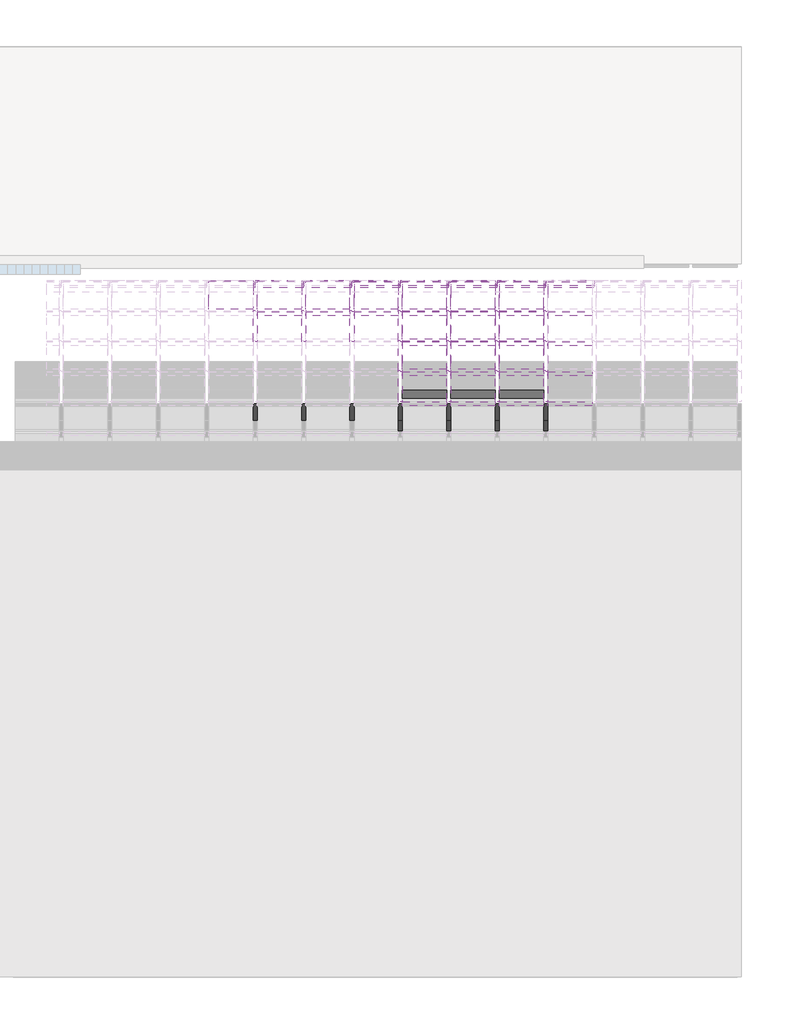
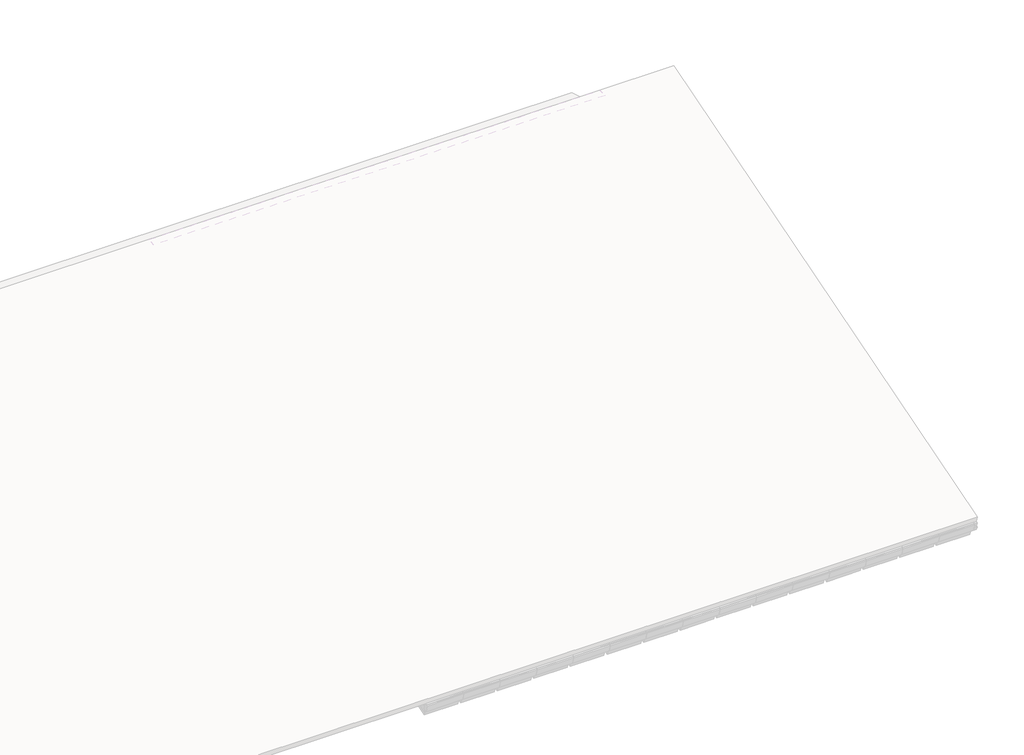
# One storey, part 52 of 57: 92 members, 31 plates.
"""IFC4 building model written with IfcOpenShell, lengths in millimetres."""

from ifc_helpers import new_model, si_unit, origin, place, context, project, spatial, transform, mapped, element, save
from components import rectangular_mullion_4c4137b9, rectangular_mullion_59984080, rectangular_mullion_3ac3718c, rectangular_mullion_caibro_df98490b, rectangular_mullion_caibro_e4384bba, rectangular_mullion_caibro_0993a3cf, rectangular_mullion_caibro_650698a1, empty_system_panel_vazio_178faf58, empty_system_panel_vazio_2c78850d

model = new_model("IFC4")

# Units and contexts
model_context = context("Model", 3, world=origin())
ifc_project = project(units=[si_unit("LENGTHUNIT", "METRE", prefix="MILLI")], contexts=[model_context])

# Site, building, storey
site = spatial("IfcSite", under=ifc_project)
building = spatial("IfcBuilding", under=site)
storey = spatial("IfcBuildingStorey", under=building, Name="Nível 2", Elevation=4100.0)

# Members
placement = place(None, origin())
rectangular_mullion_shape = rectangular_mullion_4c4137b9(model_context)
element("IfcMember", 1, ObjectType="Rectangular Mullion : Ripa", at=placement, inside=storey, context=model_context, shape_type="MappedRepresentation", body=[
    mapped(rectangular_mullion_shape, transform((37574.9660377, 15566.1284427, 5819.8877114), x_axis=(0.0, 0.9578262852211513, 0.2873478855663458), y_axis=(0.0, 0.2873478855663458, -0.9578262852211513), z_axis=(-1.0, 0.0, 0.0))),
])
element("IfcMember", 2, ObjectType="Rectangular Mullion : Ripa", at=placement, inside=storey, context=model_context, shape_type="MappedRepresentation", body=[
    mapped(rectangular_mullion_shape, transform((38172.0207941, 15566.1284427, 5819.8877114), x_axis=(0.0, 0.9578262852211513, 0.2873478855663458), y_axis=(0.0, 0.2873478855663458, -0.9578262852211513), z_axis=(-1.0, 0.0, 0.0))),
])
element("IfcMember", 3, ObjectType="Rectangular Mullion : Ripa", at=placement, inside=storey, context=model_context, shape_type="MappedRepresentation", body=[
    mapped(rectangular_mullion_shape, transform((38769.0755505, 15566.1284427, 5819.8877114), x_axis=(0.0, 0.9578262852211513, 0.2873478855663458), y_axis=(0.0, 0.2873478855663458, -0.9578262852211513), z_axis=(-1.0, 0.0, 0.0))),
])
element("IfcMember", 4, ObjectType="Rectangular Mullion : Ripa", at=placement, inside=storey, context=model_context, shape_type="MappedRepresentation", body=[
    mapped(rectangular_mullion_shape, transform((39366.1303069, 15566.1284427, 5819.8877114), x_axis=(0.0, 0.9578262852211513, 0.2873478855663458), y_axis=(0.0, 0.2873478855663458, -0.9578262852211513), z_axis=(-1.0, 0.0, 0.0))),
])
element("IfcMember", 5, ObjectType="Rectangular Mullion : Ripa", at=placement, inside=storey, context=model_context, shape_type="MappedRepresentation", body=[
    mapped(rectangular_mullion_shape, transform((39963.1850634, 15566.1284427, 5819.8877114), x_axis=(0.0, 0.9578262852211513, 0.2873478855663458), y_axis=(0.0, 0.2873478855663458, -0.9578262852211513), z_axis=(-1.0, 0.0, 0.0))),
])
rectangular_mullion_2_shape = rectangular_mullion_59984080(model_context)
element("IfcMember", 6, ObjectType="Rectangular Mullion : Ripa", at=placement, inside=storey, context=model_context, shape_type="MappedRepresentation", body=[
    mapped(rectangular_mullion_2_shape, transform((40585.2398198, 8162.5832694, 3598.8241594), x_axis=(0.0, 0.9578262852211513, 0.2873478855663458), y_axis=(0.0, 0.2873478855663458, -0.9578262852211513), z_axis=(-1.0, 0.0, 0.0))),
])
element("IfcMember", 7, ObjectType="Rectangular Mullion : Ripa", at=placement, inside=storey, context=model_context, shape_type="MappedRepresentation", body=[
    mapped(rectangular_mullion_2_shape, transform((41182.2945762, 8162.5832694, 3598.8241594), x_axis=(0.0, 0.9578262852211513, 0.2873478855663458), y_axis=(0.0, 0.2873478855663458, -0.9578262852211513), z_axis=(-1.0, 0.0, 0.0))),
])
element("IfcMember", 8, ObjectType="Rectangular Mullion : Ripa", at=placement, inside=storey, context=model_context, shape_type="MappedRepresentation", body=[
    mapped(rectangular_mullion_2_shape, transform((41779.3493326, 8162.5832694, 3598.8241594), x_axis=(0.0, 0.9578262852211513, 0.2873478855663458), y_axis=(0.0, 0.2873478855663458, -0.9578262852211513), z_axis=(-1.0, 0.0, 0.0))),
])
element("IfcMember", 9, ObjectType="Rectangular Mullion : Ripa", at=placement, inside=storey, context=model_context, shape_type="MappedRepresentation", body=[
    mapped(rectangular_mullion_2_shape, transform((40585.2398198, 8532.7605281, 3709.877337), x_axis=(0.0, 0.9578262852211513, 0.2873478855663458), y_axis=(0.0, 0.2873478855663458, -0.9578262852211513), z_axis=(-1.0, 0.0, 0.0))),
])
element("IfcMember", 10, ObjectType="Rectangular Mullion : Ripa", at=placement, inside=storey, context=model_context, shape_type="MappedRepresentation", body=[
    mapped(rectangular_mullion_2_shape, transform((41182.2945762, 8532.7605281, 3709.877337), x_axis=(0.0, 0.9578262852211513, 0.2873478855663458), y_axis=(0.0, 0.2873478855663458, -0.9578262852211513), z_axis=(-1.0, 0.0, 0.0))),
])
element("IfcMember", 11, ObjectType="Rectangular Mullion : Ripa", at=placement, inside=storey, context=model_context, shape_type="MappedRepresentation", body=[
    mapped(rectangular_mullion_2_shape, transform((41779.3493326, 8532.7605281, 3709.877337), x_axis=(0.0, 0.9578262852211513, 0.2873478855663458), y_axis=(0.0, 0.2873478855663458, -0.9578262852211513), z_axis=(-1.0, 0.0, 0.0))),
])
element("IfcMember", 12, ObjectType="Rectangular Mullion : Ripa", at=placement, inside=storey, context=model_context, shape_type="MappedRepresentation", body=[
    mapped(rectangular_mullion_2_shape, transform((40585.2398198, 8902.9377868, 3820.9305146), x_axis=(0.0, 0.9578262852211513, 0.2873478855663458), y_axis=(0.0, 0.2873478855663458, -0.9578262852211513), z_axis=(-1.0, 0.0, 0.0))),
])
element("IfcMember", 13, ObjectType="Rectangular Mullion : Ripa", at=placement, inside=storey, context=model_context, shape_type="MappedRepresentation", body=[
    mapped(rectangular_mullion_2_shape, transform((41182.2945762, 8902.9377868, 3820.9305146), x_axis=(0.0, 0.9578262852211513, 0.2873478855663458), y_axis=(0.0, 0.2873478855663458, -0.9578262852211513), z_axis=(-1.0, 0.0, 0.0))),
])
element("IfcMember", 14, ObjectType="Rectangular Mullion : Ripa", at=placement, inside=storey, context=model_context, shape_type="MappedRepresentation", body=[
    mapped(rectangular_mullion_2_shape, transform((41779.3493326, 8902.9377868, 3820.9305146), x_axis=(0.0, 0.9578262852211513, 0.2873478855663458), y_axis=(0.0, 0.2873478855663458, -0.9578262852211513), z_axis=(-1.0, 0.0, 0.0))),
])
element("IfcMember", 15, ObjectType="Rectangular Mullion : Ripa", at=placement, inside=storey, context=model_context, shape_type="MappedRepresentation", body=[
    mapped(rectangular_mullion_2_shape, transform((40585.2398198, 9273.1150454, 3931.9836922), x_axis=(0.0, 0.9578262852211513, 0.2873478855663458), y_axis=(0.0, 0.2873478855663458, -0.9578262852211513), z_axis=(-1.0, 0.0, 0.0))),
])
element("IfcMember", 16, ObjectType="Rectangular Mullion : Ripa", at=placement, inside=storey, context=model_context, shape_type="MappedRepresentation", body=[
    mapped(rectangular_mullion_2_shape, transform((40585.2398198, 9643.2923041, 4043.0368698), x_axis=(0.0, 0.9578262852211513, 0.2873478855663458), y_axis=(0.0, 0.2873478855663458, -0.9578262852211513), z_axis=(-1.0, 0.0, 0.0))),
])
element("IfcMember", 17, ObjectType="Rectangular Mullion : Ripa", at=placement, inside=storey, context=model_context, shape_type="MappedRepresentation", body=[
    mapped(rectangular_mullion_2_shape, transform((38197.0207941, 14085.4194081, 5375.675001), x_axis=(0.0, 0.9578262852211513, 0.2873478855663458), y_axis=(0.0, 0.2873478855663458, -0.9578262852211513), z_axis=(-1.0, 0.0, 0.0))),
])
element("IfcMember", 18, ObjectType="Rectangular Mullion : Ripa", at=placement, inside=storey, context=model_context, shape_type="MappedRepresentation", body=[
    mapped(rectangular_mullion_2_shape, transform((38794.0755505, 14085.4194081, 5375.675001), x_axis=(0.0, 0.9578262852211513, 0.2873478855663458), y_axis=(0.0, 0.2873478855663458, -0.9578262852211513), z_axis=(-1.0, 0.0, 0.0))),
])
element("IfcMember", 19, ObjectType="Rectangular Mullion : Ripa", at=placement, inside=storey, context=model_context, shape_type="MappedRepresentation", body=[
    mapped(rectangular_mullion_2_shape, transform((39391.1303069, 14085.4194081, 5375.675001), x_axis=(0.0, 0.9578262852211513, 0.2873478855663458), y_axis=(0.0, 0.2873478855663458, -0.9578262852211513), z_axis=(-1.0, 0.0, 0.0))),
])
element("IfcMember", 20, ObjectType="Rectangular Mullion : Ripa", at=placement, inside=storey, context=model_context, shape_type="MappedRepresentation", body=[
    mapped(rectangular_mullion_2_shape, transform((39988.1850634, 14085.4194081, 5375.675001), x_axis=(0.0, 0.9578262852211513, 0.2873478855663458), y_axis=(0.0, 0.2873478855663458, -0.9578262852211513), z_axis=(-1.0, 0.0, 0.0))),
])
element("IfcMember", 21, ObjectType="Rectangular Mullion : Ripa", at=placement, inside=storey, context=model_context, shape_type="MappedRepresentation", body=[
    mapped(rectangular_mullion_2_shape, transform((38197.0207941, 14455.5966667, 5486.7281786), x_axis=(0.0, 0.9578262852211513, 0.2873478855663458), y_axis=(0.0, 0.2873478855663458, -0.9578262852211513), z_axis=(-1.0, 0.0, 0.0))),
])
element("IfcMember", 22, ObjectType="Rectangular Mullion : Ripa", at=placement, inside=storey, context=model_context, shape_type="MappedRepresentation", body=[
    mapped(rectangular_mullion_2_shape, transform((38794.0755505, 14455.5966667, 5486.7281786), x_axis=(0.0, 0.9578262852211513, 0.2873478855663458), y_axis=(0.0, 0.2873478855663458, -0.9578262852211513), z_axis=(-1.0, 0.0, 0.0))),
])
element("IfcMember", 23, ObjectType="Rectangular Mullion : Ripa", at=placement, inside=storey, context=model_context, shape_type="MappedRepresentation", body=[
    mapped(rectangular_mullion_2_shape, transform((39391.1303069, 14455.5966667, 5486.7281786), x_axis=(0.0, 0.9578262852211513, 0.2873478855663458), y_axis=(0.0, 0.2873478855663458, -0.9578262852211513), z_axis=(-1.0, 0.0, 0.0))),
])
element("IfcMember", 24, ObjectType="Rectangular Mullion : Ripa", at=placement, inside=storey, context=model_context, shape_type="MappedRepresentation", body=[
    mapped(rectangular_mullion_2_shape, transform((39988.1850634, 14455.5966667, 5486.7281786), x_axis=(0.0, 0.9578262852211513, 0.2873478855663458), y_axis=(0.0, 0.2873478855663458, -0.9578262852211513), z_axis=(-1.0, 0.0, 0.0))),
])
element("IfcMember", 25, ObjectType="Rectangular Mullion : Ripa", at=placement, inside=storey, context=model_context, shape_type="MappedRepresentation", body=[
    mapped(rectangular_mullion_2_shape, transform((38197.0207941, 14825.7739254, 5597.7813562), x_axis=(0.0, 0.9578262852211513, 0.2873478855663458), y_axis=(0.0, 0.2873478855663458, -0.9578262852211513), z_axis=(-1.0, 0.0, 0.0))),
])
element("IfcMember", 26, ObjectType="Rectangular Mullion : Ripa", at=placement, inside=storey, context=model_context, shape_type="MappedRepresentation", body=[
    mapped(rectangular_mullion_2_shape, transform((38794.0755505, 14825.7739254, 5597.7813562), x_axis=(0.0, 0.9578262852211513, 0.2873478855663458), y_axis=(0.0, 0.2873478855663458, -0.9578262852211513), z_axis=(-1.0, 0.0, 0.0))),
])
element("IfcMember", 27, ObjectType="Rectangular Mullion : Ripa", at=placement, inside=storey, context=model_context, shape_type="MappedRepresentation", body=[
    mapped(rectangular_mullion_2_shape, transform((39391.1303069, 14825.7739254, 5597.7813562), x_axis=(0.0, 0.9578262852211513, 0.2873478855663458), y_axis=(0.0, 0.2873478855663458, -0.9578262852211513), z_axis=(-1.0, 0.0, 0.0))),
])
element("IfcMember", 28, ObjectType="Rectangular Mullion : Ripa", at=placement, inside=storey, context=model_context, shape_type="MappedRepresentation", body=[
    mapped(rectangular_mullion_2_shape, transform((39988.1850634, 14825.7739254, 5597.7813562), x_axis=(0.0, 0.9578262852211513, 0.2873478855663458), y_axis=(0.0, 0.2873478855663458, -0.9578262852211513), z_axis=(-1.0, 0.0, 0.0))),
])
element("IfcMember", 29, ObjectType="Rectangular Mullion : Ripa", at=placement, inside=storey, context=model_context, shape_type="MappedRepresentation", body=[
    mapped(rectangular_mullion_2_shape, transform((36405.8565248, 15195.9511841, 5708.8345338), x_axis=(0.0, 0.9578262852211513, 0.2873478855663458), y_axis=(0.0, 0.2873478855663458, -0.9578262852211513), z_axis=(-1.0, 0.0, 0.0))),
])
element("IfcMember", 30, ObjectType="Rectangular Mullion : Ripa", at=placement, inside=storey, context=model_context, shape_type="MappedRepresentation", body=[
    mapped(rectangular_mullion_2_shape, transform((37002.9112812, 15195.9511841, 5708.8345338), x_axis=(0.0, 0.9578262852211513, 0.2873478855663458), y_axis=(0.0, 0.2873478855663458, -0.9578262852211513), z_axis=(-1.0, 0.0, 0.0))),
])
element("IfcMember", 31, ObjectType="Rectangular Mullion : Ripa", at=placement, inside=storey, context=model_context, shape_type="MappedRepresentation", body=[
    mapped(rectangular_mullion_2_shape, transform((37599.9660377, 15195.9511841, 5708.8345338), x_axis=(0.0, 0.9578262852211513, 0.2873478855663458), y_axis=(0.0, 0.2873478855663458, -0.9578262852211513), z_axis=(-1.0, 0.0, 0.0))),
])
element("IfcMember", 32, ObjectType="Rectangular Mullion : Ripa", at=placement, inside=storey, context=model_context, shape_type="MappedRepresentation", body=[
    mapped(rectangular_mullion_2_shape, transform((38197.0207941, 15195.9511841, 5708.8345338), x_axis=(0.0, 0.9578262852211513, 0.2873478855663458), y_axis=(0.0, 0.2873478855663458, -0.9578262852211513), z_axis=(-1.0, 0.0, 0.0))),
])
element("IfcMember", 33, ObjectType="Rectangular Mullion : Ripa", at=placement, inside=storey, context=model_context, shape_type="MappedRepresentation", body=[
    mapped(rectangular_mullion_2_shape, transform((38794.0755505, 15195.9511841, 5708.8345338), x_axis=(0.0, 0.9578262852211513, 0.2873478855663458), y_axis=(0.0, 0.2873478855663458, -0.9578262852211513), z_axis=(-1.0, 0.0, 0.0))),
])
element("IfcMember", 34, ObjectType="Rectangular Mullion : Ripa", at=placement, inside=storey, context=model_context, shape_type="MappedRepresentation", body=[
    mapped(rectangular_mullion_2_shape, transform((39391.1303069, 15195.9511841, 5708.8345338), x_axis=(0.0, 0.9578262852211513, 0.2873478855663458), y_axis=(0.0, 0.2873478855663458, -0.9578262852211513), z_axis=(-1.0, 0.0, 0.0))),
])
element("IfcMember", 35, ObjectType="Rectangular Mullion : Ripa", at=placement, inside=storey, context=model_context, shape_type="MappedRepresentation", body=[
    mapped(rectangular_mullion_2_shape, transform((39988.1850634, 15195.9511841, 5708.8345338), x_axis=(0.0, 0.9578262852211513, 0.2873478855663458), y_axis=(0.0, 0.2873478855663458, -0.9578262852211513), z_axis=(-1.0, 0.0, 0.0))),
])
rectangular_mullion_3_shape = rectangular_mullion_3ac3718c(model_context)
element("IfcMember", 36, ObjectType="Rectangular Mullion : Terça", at=placement, inside=storey, context=model_context, shape_type="MappedRepresentation", body=[
    mapped(rectangular_mullion_3_shape, transform((36380.8565248, 15566.1284427, 5757.2458723), x_axis=(0.0, 0.9578262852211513, 0.2873478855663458), y_axis=(0.0, 0.2873478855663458, -0.9578262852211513), z_axis=(-1.0, 0.0, 0.0))),
])
element("IfcMember", 37, ObjectType="Rectangular Mullion : Terça", at=placement, inside=storey, context=model_context, shape_type="MappedRepresentation", body=[
    mapped(rectangular_mullion_3_shape, transform((36977.9112812, 15566.1284427, 5757.2458723), x_axis=(0.0, 0.9578262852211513, 0.2873478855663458), y_axis=(0.0, 0.2873478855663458, -0.9578262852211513), z_axis=(-1.0, 0.0, 0.0))),
])
element("IfcMember", 38, ObjectType="Rectangular Mullion : Terça", at=placement, inside=storey, context=model_context, shape_type="MappedRepresentation", body=[
    mapped(rectangular_mullion_3_shape, transform((37574.9660377, 15566.1284427, 5757.2458723), x_axis=(0.0, 0.9578262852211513, 0.2873478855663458), y_axis=(0.0, 0.2873478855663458, -0.9578262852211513), z_axis=(-1.0, 0.0, 0.0))),
])
element("IfcMember", 39, ObjectType="Rectangular Mullion : Terça", at=placement, inside=storey, context=model_context, shape_type="MappedRepresentation", body=[
    mapped(rectangular_mullion_3_shape, transform((38172.0207941, 15566.1284427, 5757.2458723), x_axis=(0.0, 0.9578262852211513, 0.2873478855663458), y_axis=(0.0, 0.2873478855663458, -0.9578262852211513), z_axis=(-1.0, 0.0, 0.0))),
])
element("IfcMember", 40, ObjectType="Rectangular Mullion : Terça", at=placement, inside=storey, context=model_context, shape_type="MappedRepresentation", body=[
    mapped(rectangular_mullion_3_shape, transform((38769.0755505, 15566.1284427, 5757.2458723), x_axis=(0.0, 0.9578262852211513, 0.2873478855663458), y_axis=(0.0, 0.2873478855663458, -0.9578262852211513), z_axis=(-1.0, 0.0, 0.0))),
])
element("IfcMember", 41, ObjectType="Rectangular Mullion : Terça", at=placement, inside=storey, context=model_context, shape_type="MappedRepresentation", body=[
    mapped(rectangular_mullion_3_shape, transform((39366.1303069, 15566.1284427, 5757.2458723), x_axis=(0.0, 0.9578262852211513, 0.2873478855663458), y_axis=(0.0, 0.2873478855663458, -0.9578262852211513), z_axis=(-1.0, 0.0, 0.0))),
])
element("IfcMember", 42, ObjectType="Rectangular Mullion : Terça", at=placement, inside=storey, context=model_context, shape_type="MappedRepresentation", body=[
    mapped(rectangular_mullion_3_shape, transform((39963.1850634, 15566.1284427, 5757.2458723), x_axis=(0.0, 0.9578262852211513, 0.2873478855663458), y_axis=(0.0, 0.2873478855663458, -0.9578262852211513), z_axis=(-1.0, 0.0, 0.0))),
])
rectangular_mullion_caibro_shape = rectangular_mullion_caibro_df98490b(model_context)
element("IfcMember", 43, ObjectType="Rectangular Mullion : Caibro", at=placement, inside=storey, context=model_context, shape_type="MappedRepresentation", body=[
    mapped(rectangular_mullion_caibro_shape, transform((37574.9660377, 15518.2371285, 5805.5203171), x_axis=(1.0, 0.0, 0.0), y_axis=(0.0, 0.28734788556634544, -0.9578262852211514), z_axis=(0.0, 0.9578262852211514, 0.28734788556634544))),
])
element("IfcMember", 44, ObjectType="Rectangular Mullion : Caibro", at=placement, inside=storey, context=model_context, shape_type="MappedRepresentation", body=[
    mapped(rectangular_mullion_caibro_shape, transform((38172.0207941, 15518.2371285, 5805.5203171), x_axis=(1.0, 0.0, 0.0), y_axis=(0.0, 0.28734788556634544, -0.9578262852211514), z_axis=(0.0, 0.9578262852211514, 0.28734788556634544))),
])
element("IfcMember", 45, ObjectType="Rectangular Mullion : Caibro", at=placement, inside=storey, context=model_context, shape_type="MappedRepresentation", body=[
    mapped(rectangular_mullion_caibro_shape, transform((38769.0755505, 15518.2371285, 5805.5203171), x_axis=(1.0, 0.0, 0.0), y_axis=(0.0, 0.28734788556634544, -0.9578262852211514), z_axis=(0.0, 0.9578262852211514, 0.28734788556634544))),
])
element("IfcMember", 46, ObjectType="Rectangular Mullion : Caibro", at=placement, inside=storey, context=model_context, shape_type="MappedRepresentation", body=[
    mapped(rectangular_mullion_caibro_shape, transform((39366.1303069, 15518.2371285, 5805.5203171), x_axis=(1.0, 0.0, 0.0), y_axis=(0.0, 0.28734788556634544, -0.9578262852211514), z_axis=(0.0, 0.9578262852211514, 0.28734788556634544))),
])
element("IfcMember", 47, ObjectType="Rectangular Mullion : Caibro", at=placement, inside=storey, context=model_context, shape_type="MappedRepresentation", body=[
    mapped(rectangular_mullion_caibro_shape, transform((39963.1850634, 15518.2371285, 5805.5203171), x_axis=(1.0, 0.0, 0.0), y_axis=(0.0, 0.28734788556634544, -0.9578262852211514), z_axis=(0.0, 0.9578262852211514, 0.28734788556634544))),
])
rectangular_mullion_caibro_2_shape = rectangular_mullion_caibro_e4384bba(model_context)
element("IfcMember", 48, ObjectType="Rectangular Mullion : Caibro", at=placement, inside=storey, context=model_context, shape_type="MappedRepresentation", body=[
    mapped(rectangular_mullion_caibro_2_shape, transform((36380.8565248, 15195.9511841, 5708.8345338), x_axis=(1.0, 0.0, 0.0), y_axis=(0.0, 0.28734788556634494, -0.9578262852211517), z_axis=(0.0, 0.9578262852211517, 0.28734788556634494))),
])
element("IfcMember", 49, ObjectType="Rectangular Mullion : Caibro", at=placement, inside=storey, context=model_context, shape_type="MappedRepresentation", body=[
    mapped(rectangular_mullion_caibro_2_shape, transform((36977.9112812, 15195.9511841, 5708.8345338), x_axis=(1.0, 0.0, 0.0), y_axis=(0.0, 0.28734788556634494, -0.9578262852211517), z_axis=(0.0, 0.9578262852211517, 0.28734788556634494))),
])
element("IfcMember", 50, ObjectType="Rectangular Mullion : Caibro", at=placement, inside=storey, context=model_context, shape_type="MappedRepresentation", body=[
    mapped(rectangular_mullion_caibro_2_shape, transform((37574.9660377, 15195.9511841, 5708.8345338), x_axis=(1.0, 0.0, 0.0), y_axis=(0.0, 0.28734788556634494, -0.9578262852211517), z_axis=(0.0, 0.9578262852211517, 0.28734788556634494))),
])
element("IfcMember", 51, ObjectType="Rectangular Mullion : Caibro", at=placement, inside=storey, context=model_context, shape_type="MappedRepresentation", body=[
    mapped(rectangular_mullion_caibro_2_shape, transform((38172.0207941, 14085.4194081, 5375.675001), x_axis=(1.0, 0.0, 0.0), y_axis=(0.0, 0.28734788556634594, -0.9578262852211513), z_axis=(0.0, 0.9578262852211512, 0.2873478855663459))),
])
element("IfcMember", 52, ObjectType="Rectangular Mullion : Caibro", at=placement, inside=storey, context=model_context, shape_type="MappedRepresentation", body=[
    mapped(rectangular_mullion_caibro_2_shape, transform((38172.0207941, 14455.5966667, 5486.7281786), x_axis=(1.0, 0.0, 0.0), y_axis=(0.0, 0.2873478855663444, -0.9578262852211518), z_axis=(0.0, 0.9578262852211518, 0.2873478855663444))),
])
element("IfcMember", 53, ObjectType="Rectangular Mullion : Caibro", at=placement, inside=storey, context=model_context, shape_type="MappedRepresentation", body=[
    mapped(rectangular_mullion_caibro_2_shape, transform((38172.0207941, 14825.7739254, 5597.7813562), x_axis=(1.0, 0.0, 0.0), y_axis=(0.0, 0.287347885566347, -0.9578262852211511), z_axis=(0.0, 0.9578262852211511, 0.287347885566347))),
])
element("IfcMember", 54, ObjectType="Rectangular Mullion : Caibro", at=placement, inside=storey, context=model_context, shape_type="MappedRepresentation", body=[
    mapped(rectangular_mullion_caibro_2_shape, transform((38172.0207941, 15195.9511841, 5708.8345338), x_axis=(1.0, 0.0, 0.0), y_axis=(0.0, 0.28734788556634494, -0.9578262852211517), z_axis=(0.0, 0.9578262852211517, 0.28734788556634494))),
])
element("IfcMember", 55, ObjectType="Rectangular Mullion : Caibro", at=placement, inside=storey, context=model_context, shape_type="MappedRepresentation", body=[
    mapped(rectangular_mullion_caibro_2_shape, transform((38769.0755505, 14085.4194081, 5375.675001), x_axis=(1.0, 0.0, 0.0), y_axis=(0.0, 0.28734788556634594, -0.9578262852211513), z_axis=(0.0, 0.9578262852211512, 0.2873478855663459))),
])
element("IfcMember", 56, ObjectType="Rectangular Mullion : Caibro", at=placement, inside=storey, context=model_context, shape_type="MappedRepresentation", body=[
    mapped(rectangular_mullion_caibro_2_shape, transform((38769.0755505, 14455.5966667, 5486.7281786), x_axis=(1.0, 0.0, 0.0), y_axis=(0.0, 0.2873478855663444, -0.9578262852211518), z_axis=(0.0, 0.9578262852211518, 0.2873478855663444))),
])
element("IfcMember", 57, ObjectType="Rectangular Mullion : Caibro", at=placement, inside=storey, context=model_context, shape_type="MappedRepresentation", body=[
    mapped(rectangular_mullion_caibro_2_shape, transform((38769.0755505, 14825.7739254, 5597.7813562), x_axis=(1.0, 0.0, 0.0), y_axis=(0.0, 0.287347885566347, -0.9578262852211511), z_axis=(0.0, 0.9578262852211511, 0.287347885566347))),
])
element("IfcMember", 58, ObjectType="Rectangular Mullion : Caibro", at=placement, inside=storey, context=model_context, shape_type="MappedRepresentation", body=[
    mapped(rectangular_mullion_caibro_2_shape, transform((38769.0755505, 15195.9511841, 5708.8345338), x_axis=(1.0, 0.0, 0.0), y_axis=(0.0, 0.28734788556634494, -0.9578262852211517), z_axis=(0.0, 0.9578262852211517, 0.28734788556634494))),
])
element("IfcMember", 59, ObjectType="Rectangular Mullion : Caibro", at=placement, inside=storey, context=model_context, shape_type="MappedRepresentation", body=[
    mapped(rectangular_mullion_caibro_2_shape, transform((39366.1303069, 14085.4194081, 5375.675001), x_axis=(1.0, 0.0, 0.0), y_axis=(0.0, 0.28734788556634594, -0.9578262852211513), z_axis=(0.0, 0.9578262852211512, 0.2873478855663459))),
])
element("IfcMember", 60, ObjectType="Rectangular Mullion : Caibro", at=placement, inside=storey, context=model_context, shape_type="MappedRepresentation", body=[
    mapped(rectangular_mullion_caibro_2_shape, transform((39366.1303069, 14455.5966667, 5486.7281786), x_axis=(1.0, 0.0, 0.0), y_axis=(0.0, 0.2873478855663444, -0.9578262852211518), z_axis=(0.0, 0.9578262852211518, 0.2873478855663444))),
])
element("IfcMember", 61, ObjectType="Rectangular Mullion : Caibro", at=placement, inside=storey, context=model_context, shape_type="MappedRepresentation", body=[
    mapped(rectangular_mullion_caibro_2_shape, transform((39366.1303069, 14825.7739254, 5597.7813562), x_axis=(1.0, 0.0, 0.0), y_axis=(0.0, 0.287347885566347, -0.9578262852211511), z_axis=(0.0, 0.9578262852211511, 0.287347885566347))),
])
element("IfcMember", 62, ObjectType="Rectangular Mullion : Caibro", at=placement, inside=storey, context=model_context, shape_type="MappedRepresentation", body=[
    mapped(rectangular_mullion_caibro_2_shape, transform((39366.1303069, 15195.9511841, 5708.8345338), x_axis=(1.0, 0.0, 0.0), y_axis=(0.0, 0.28734788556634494, -0.9578262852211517), z_axis=(0.0, 0.9578262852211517, 0.28734788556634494))),
])
element("IfcMember", 63, ObjectType="Rectangular Mullion : Caibro", at=placement, inside=storey, context=model_context, shape_type="MappedRepresentation", body=[
    mapped(rectangular_mullion_caibro_2_shape, transform((39963.1850634, 14085.4194081, 5375.675001), x_axis=(1.0, 0.0, 0.0), y_axis=(0.0, 0.28734788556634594, -0.9578262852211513), z_axis=(0.0, 0.9578262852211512, 0.2873478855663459))),
])
element("IfcMember", 64, ObjectType="Rectangular Mullion : Caibro", at=placement, inside=storey, context=model_context, shape_type="MappedRepresentation", body=[
    mapped(rectangular_mullion_caibro_2_shape, transform((39963.1850634, 14455.5966667, 5486.7281786), x_axis=(1.0, 0.0, 0.0), y_axis=(0.0, 0.2873478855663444, -0.9578262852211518), z_axis=(0.0, 0.9578262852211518, 0.2873478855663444))),
])
element("IfcMember", 65, ObjectType="Rectangular Mullion : Caibro", at=placement, inside=storey, context=model_context, shape_type="MappedRepresentation", body=[
    mapped(rectangular_mullion_caibro_2_shape, transform((39963.1850634, 14825.7739254, 5597.7813562), x_axis=(1.0, 0.0, 0.0), y_axis=(0.0, 0.287347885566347, -0.9578262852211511), z_axis=(0.0, 0.9578262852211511, 0.287347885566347))),
])
element("IfcMember", 66, ObjectType="Rectangular Mullion : Caibro", at=placement, inside=storey, context=model_context, shape_type="MappedRepresentation", body=[
    mapped(rectangular_mullion_caibro_2_shape, transform((39963.1850634, 15195.9511841, 5708.8345338), x_axis=(1.0, 0.0, 0.0), y_axis=(0.0, 0.28734788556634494, -0.9578262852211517), z_axis=(0.0, 0.9578262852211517, 0.28734788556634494))),
])
element("IfcMember", 67, ObjectType="Rectangular Mullion : Caibro", at=placement, inside=storey, context=model_context, shape_type="MappedRepresentation", body=[
    mapped(rectangular_mullion_caibro_2_shape, transform((40560.2398198, 8162.5832694, 3598.8241594), x_axis=(1.0, 0.0, 0.0), y_axis=(0.0, 0.28734788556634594, -0.9578262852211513), z_axis=(0.0, 0.9578262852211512, 0.2873478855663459))),
])
element("IfcMember", 68, ObjectType="Rectangular Mullion : Caibro", at=placement, inside=storey, context=model_context, shape_type="MappedRepresentation", body=[
    mapped(rectangular_mullion_caibro_2_shape, transform((40560.2398198, 8532.7605281, 3709.877337), x_axis=(1.0, 0.0, 0.0), y_axis=(0.0, 0.2873478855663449, -0.9578262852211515), z_axis=(0.0, 0.9578262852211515, 0.2873478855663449))),
])
element("IfcMember", 69, ObjectType="Rectangular Mullion : Caibro", at=placement, inside=storey, context=model_context, shape_type="MappedRepresentation", body=[
    mapped(rectangular_mullion_caibro_2_shape, transform((40560.2398198, 8902.9377868, 3820.9305146), x_axis=(1.0, 0.0, 0.0), y_axis=(0.0, 0.2873478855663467, -0.9578262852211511), z_axis=(0.0, 0.9578262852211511, 0.2873478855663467))),
])
element("IfcMember", 70, ObjectType="Rectangular Mullion : Caibro", at=placement, inside=storey, context=model_context, shape_type="MappedRepresentation", body=[
    mapped(rectangular_mullion_caibro_2_shape, transform((40560.2398198, 9273.1150454, 3931.9836922), x_axis=(1.0, 0.0, 0.0), y_axis=(0.0, 0.2873478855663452, -0.9578262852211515), z_axis=(0.0, 0.9578262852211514, 0.28734788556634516))),
])
element("IfcMember", 71, ObjectType="Rectangular Mullion : Caibro", at=placement, inside=storey, context=model_context, shape_type="MappedRepresentation", body=[
    mapped(rectangular_mullion_caibro_2_shape, transform((40560.2398198, 9643.2923041, 4043.0368698), x_axis=(1.0, 0.0, 0.0), y_axis=(0.0, 0.2873478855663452, -0.9578262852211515), z_axis=(0.0, 0.9578262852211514, 0.28734788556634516))),
])
element("IfcMember", 72, ObjectType="Rectangular Mullion : Caibro", at=placement, inside=storey, context=model_context, shape_type="MappedRepresentation", body=[
    mapped(rectangular_mullion_caibro_2_shape, transform((41157.2945762, 8162.5832694, 3598.8241594), x_axis=(1.0, 0.0, 0.0), y_axis=(0.0, 0.28734788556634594, -0.9578262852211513), z_axis=(0.0, 0.9578262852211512, 0.2873478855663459))),
])
element("IfcMember", 73, ObjectType="Rectangular Mullion : Caibro", at=placement, inside=storey, context=model_context, shape_type="MappedRepresentation", body=[
    mapped(rectangular_mullion_caibro_2_shape, transform((41157.2945762, 8532.7605281, 3709.877337), x_axis=(1.0, 0.0, 0.0), y_axis=(0.0, 0.2873478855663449, -0.9578262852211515), z_axis=(0.0, 0.9578262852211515, 0.2873478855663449))),
])
element("IfcMember", 74, ObjectType="Rectangular Mullion : Caibro", at=placement, inside=storey, context=model_context, shape_type="MappedRepresentation", body=[
    mapped(rectangular_mullion_caibro_2_shape, transform((41157.2945762, 8902.9377868, 3820.9305146), x_axis=(1.0, 0.0, 0.0), y_axis=(0.0, 0.2873478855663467, -0.9578262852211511), z_axis=(0.0, 0.9578262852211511, 0.2873478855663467))),
])
element("IfcMember", 75, ObjectType="Rectangular Mullion : Caibro", at=placement, inside=storey, context=model_context, shape_type="MappedRepresentation", body=[
    mapped(rectangular_mullion_caibro_2_shape, transform((41754.3493326, 8162.5832694, 3598.8241594), x_axis=(1.0, 0.0, 0.0), y_axis=(0.0, 0.28734788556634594, -0.9578262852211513), z_axis=(0.0, 0.9578262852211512, 0.2873478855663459))),
])
element("IfcMember", 76, ObjectType="Rectangular Mullion : Caibro", at=placement, inside=storey, context=model_context, shape_type="MappedRepresentation", body=[
    mapped(rectangular_mullion_caibro_2_shape, transform((41754.3493326, 8532.7605281, 3709.877337), x_axis=(1.0, 0.0, 0.0), y_axis=(0.0, 0.2873478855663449, -0.9578262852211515), z_axis=(0.0, 0.9578262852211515, 0.2873478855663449))),
])
element("IfcMember", 77, ObjectType="Rectangular Mullion : Caibro", at=placement, inside=storey, context=model_context, shape_type="MappedRepresentation", body=[
    mapped(rectangular_mullion_caibro_2_shape, transform((41754.3493326, 8902.9377868, 3820.9305146), x_axis=(1.0, 0.0, 0.0), y_axis=(0.0, 0.2873478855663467, -0.9578262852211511), z_axis=(0.0, 0.9578262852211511, 0.2873478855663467))),
])
rectangular_mullion_caibro_3_shape = rectangular_mullion_caibro_0993a3cf(model_context)
element("IfcMember", 78, ObjectType="Rectangular Mullion : Caibro", at=placement, inside=storey, context=model_context, shape_type="MappedRepresentation", body=[
    mapped(rectangular_mullion_caibro_3_shape, transform((36380.8565248, 15508.6588656, 5740.0049992), x_axis=(1.0, 0.0, 0.0), y_axis=(0.0, 0.28734788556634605, -0.9578262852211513), z_axis=(0.0, 0.9578262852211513, 0.28734788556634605))),
])
element("IfcMember", 79, ObjectType="Rectangular Mullion : Caibro", at=placement, inside=storey, context=model_context, shape_type="MappedRepresentation", body=[
    mapped(rectangular_mullion_caibro_3_shape, transform((36977.9112812, 15508.6588656, 5740.0049992), x_axis=(1.0, 0.0, 0.0), y_axis=(0.0, 0.28734788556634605, -0.9578262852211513), z_axis=(0.0, 0.9578262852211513, 0.28734788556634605))),
])
element("IfcMember", 80, ObjectType="Rectangular Mullion : Caibro", at=placement, inside=storey, context=model_context, shape_type="MappedRepresentation", body=[
    mapped(rectangular_mullion_caibro_3_shape, transform((37574.9660377, 15508.6588656, 5740.0049992), x_axis=(1.0, 0.0, 0.0), y_axis=(0.0, 0.28734788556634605, -0.9578262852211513), z_axis=(0.0, 0.9578262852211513, 0.28734788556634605))),
])
element("IfcMember", 81, ObjectType="Rectangular Mullion : Caibro", at=placement, inside=storey, context=model_context, shape_type="MappedRepresentation", body=[
    mapped(rectangular_mullion_caibro_3_shape, transform((38172.0207941, 15508.6588656, 5740.0049992), x_axis=(1.0, 0.0, 0.0), y_axis=(0.0, 0.28734788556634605, -0.9578262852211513), z_axis=(0.0, 0.9578262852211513, 0.28734788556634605))),
])
element("IfcMember", 82, ObjectType="Rectangular Mullion : Caibro", at=placement, inside=storey, context=model_context, shape_type="MappedRepresentation", body=[
    mapped(rectangular_mullion_caibro_3_shape, transform((38769.0755505, 15508.6588656, 5740.0049992), x_axis=(1.0, 0.0, 0.0), y_axis=(0.0, 0.28734788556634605, -0.9578262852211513), z_axis=(0.0, 0.9578262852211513, 0.28734788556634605))),
])
element("IfcMember", 83, ObjectType="Rectangular Mullion : Caibro", at=placement, inside=storey, context=model_context, shape_type="MappedRepresentation", body=[
    mapped(rectangular_mullion_caibro_3_shape, transform((39366.1303069, 15508.6588656, 5740.0049992), x_axis=(1.0, 0.0, 0.0), y_axis=(0.0, 0.28734788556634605, -0.9578262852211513), z_axis=(0.0, 0.9578262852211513, 0.28734788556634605))),
])
element("IfcMember", 84, ObjectType="Rectangular Mullion : Caibro", at=placement, inside=storey, context=model_context, shape_type="MappedRepresentation", body=[
    mapped(rectangular_mullion_caibro_3_shape, transform((39963.1850634, 15508.6588656, 5740.0049992), x_axis=(1.0, 0.0, 0.0), y_axis=(0.0, 0.28734788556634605, -0.9578262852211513), z_axis=(0.0, 0.9578262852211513, 0.28734788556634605))),
])
element("IfcMember", 85, ObjectType="Rectangular Mullion : Caibro", at=placement, inside=storey, context=model_context, shape_type="MappedRepresentation", body=[
    mapped(rectangular_mullion_caibro_3_shape, transform((40560.2398198, 9159.0196393, 3835.1132313), x_axis=(1.0, 0.0, 0.0), y_axis=(0.0, 0.2873478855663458, -0.9578262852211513), z_axis=(0.0, 0.9578262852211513, 0.2873478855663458))),
])
rectangular_mullion_caibro_4_shape = rectangular_mullion_caibro_650698a1(model_context)
element("IfcMember", 86, ObjectType="Rectangular Mullion : Caibro", at=placement, inside=storey, context=model_context, shape_type="MappedRepresentation", body=[
    mapped(rectangular_mullion_caibro_4_shape, transform((39962.1356561, 15772.0058221, 4410.7541277), x_axis=(-1.0, 0.0, 0.0), y_axis=(0.0, -0.28734788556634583, -0.9578262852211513), z_axis=(0.0, -0.9578262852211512, 0.2873478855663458))),
])
element("IfcMember", 87, ObjectType="Rectangular Mullion : Caibro", at=placement, inside=storey, context=model_context, shape_type="MappedRepresentation", body=[
    mapped(rectangular_mullion_caibro_4_shape, transform((39364.7871544, 15772.0058221, 4410.7541277), x_axis=(-1.0, 0.0, 0.0), y_axis=(0.0, -0.2873478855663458, -0.9578262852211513), z_axis=(0.0, -0.9578262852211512, 0.2873478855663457))),
])
element("IfcMember", 88, ObjectType="Rectangular Mullion : Caibro", at=placement, inside=storey, context=model_context, shape_type="MappedRepresentation", body=[
    mapped(rectangular_mullion_caibro_4_shape, transform((38767.4386528, 15772.0058221, 4410.7541277), x_axis=(-1.0, 0.0, 0.0), y_axis=(0.0, -0.28734788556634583, -0.9578262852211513), z_axis=(0.0, -0.9578262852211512, 0.2873478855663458))),
])
element("IfcMember", 89, ObjectType="Rectangular Mullion : Caibro", at=placement, inside=storey, context=model_context, shape_type="MappedRepresentation", body=[
    mapped(rectangular_mullion_caibro_4_shape, transform((38170.0901511, 15772.0058221, 4410.7541277), x_axis=(-1.0, 0.0, 0.0), y_axis=(0.0, -0.28734788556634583, -0.9578262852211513), z_axis=(0.0, -0.9578262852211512, 0.2873478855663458))),
])
element("IfcMember", 90, ObjectType="Rectangular Mullion : Caibro", at=placement, inside=storey, context=model_context, shape_type="MappedRepresentation", body=[
    mapped(rectangular_mullion_caibro_4_shape, transform((37572.7416494, 15772.0058221, 4410.7541277), x_axis=(-1.0, 0.0, 0.0), y_axis=(0.0, -0.28734788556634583, -0.9578262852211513), z_axis=(0.0, -0.9578262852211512, 0.2873478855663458))),
])
element("IfcMember", 91, ObjectType="Rectangular Mullion : Caibro", at=placement, inside=storey, context=model_context, shape_type="MappedRepresentation", body=[
    mapped(rectangular_mullion_caibro_4_shape, transform((36975.3931478, 15772.0058221, 4410.7541277), x_axis=(-1.0, 0.0, 0.0), y_axis=(0.0, -0.28734788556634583, -0.9578262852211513), z_axis=(0.0, -0.9578262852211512, 0.2873478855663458))),
])
element("IfcMember", 92, ObjectType="Rectangular Mullion : Caibro", at=placement, inside=storey, context=model_context, shape_type="MappedRepresentation", body=[
    mapped(rectangular_mullion_caibro_4_shape, transform((36378.0446461, 15772.0058221, 4410.7541277), x_axis=(-1.0, 0.0, 0.0), y_axis=(0.0, -0.28734788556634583, -0.9578262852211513), z_axis=(0.0, -0.9578262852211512, 0.2873478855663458))),
])

# Plates
empty_system_panel_vazio_shape = empty_system_panel_vazio_178faf58(model_context)
element("IfcPlate", 93, ObjectType="Empty System Panel : Vazio", at=placement, inside=storey, context=model_context, shape_type="MappedRepresentation", body=[
    mapped(empty_system_panel_vazio_shape, transform((40261.7124416, 8162.5832694, 3598.8241594), x_axis=(1.0, 0.0, 0.0), y_axis=(0.0, 0.2873478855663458, -0.9578262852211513), z_axis=(0.0, 0.9578262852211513, 0.2873478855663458))),
])
element("IfcPlate", 94, ObjectType="Empty System Panel : Vazio", at=placement, inside=storey, context=model_context, shape_type="MappedRepresentation", body=[
    mapped(empty_system_panel_vazio_shape, transform((40858.767198, 8162.5832694, 3598.8241594), x_axis=(1.0, 0.0, 0.0), y_axis=(0.0, 0.2873478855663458, -0.9578262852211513), z_axis=(0.0, 0.9578262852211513, 0.2873478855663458))),
])
element("IfcPlate", 95, ObjectType="Empty System Panel : Vazio", at=placement, inside=storey, context=model_context, shape_type="MappedRepresentation", body=[
    mapped(empty_system_panel_vazio_shape, transform((41455.8219544, 8162.5832694, 3598.8241594), x_axis=(1.0, 0.0, 0.0), y_axis=(0.0, 0.2873478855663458, -0.9578262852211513), z_axis=(0.0, 0.9578262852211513, 0.2873478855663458))),
])
element("IfcPlate", 96, ObjectType="Empty System Panel : Vazio", at=placement, inside=storey, context=model_context, shape_type="MappedRepresentation", body=[
    mapped(empty_system_panel_vazio_shape, transform((40261.7124416, 8532.7605281, 3709.877337), x_axis=(1.0, 0.0, 0.0), y_axis=(0.0, 0.2873478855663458, -0.9578262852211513), z_axis=(0.0, 0.9578262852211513, 0.2873478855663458))),
])
element("IfcPlate", 97, ObjectType="Empty System Panel : Vazio", at=placement, inside=storey, context=model_context, shape_type="MappedRepresentation", body=[
    mapped(empty_system_panel_vazio_shape, transform((40858.767198, 8532.7605281, 3709.877337), x_axis=(1.0, 0.0, 0.0), y_axis=(0.0, 0.2873478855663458, -0.9578262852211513), z_axis=(0.0, 0.9578262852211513, 0.2873478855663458))),
])
element("IfcPlate", 98, ObjectType="Empty System Panel : Vazio", at=placement, inside=storey, context=model_context, shape_type="MappedRepresentation", body=[
    mapped(empty_system_panel_vazio_shape, transform((41455.8219544, 8532.7605281, 3709.877337), x_axis=(1.0, 0.0, 0.0), y_axis=(0.0, 0.2873478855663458, -0.9578262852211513), z_axis=(0.0, 0.9578262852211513, 0.2873478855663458))),
])
element("IfcPlate", 99, ObjectType="Empty System Panel : Vazio", at=placement, inside=storey, context=model_context, shape_type="MappedRepresentation", body=[
    mapped(empty_system_panel_vazio_shape, transform((40261.7124416, 8902.9377868, 3820.9305146), x_axis=(1.0, 0.0, 0.0), y_axis=(0.0, 0.2873478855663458, -0.9578262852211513), z_axis=(0.0, 0.9578262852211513, 0.2873478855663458))),
])
element("IfcPlate", 100, ObjectType="Empty System Panel : Vazio", at=placement, inside=storey, context=model_context, shape_type="MappedRepresentation", body=[
    mapped(empty_system_panel_vazio_shape, transform((40858.767198, 8902.9377868, 3820.9305146), x_axis=(1.0, 0.0, 0.0), y_axis=(0.0, 0.2873478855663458, -0.9578262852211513), z_axis=(0.0, 0.9578262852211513, 0.2873478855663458))),
])
element("IfcPlate", 101, ObjectType="Empty System Panel : Vazio", at=placement, inside=storey, context=model_context, shape_type="MappedRepresentation", body=[
    mapped(empty_system_panel_vazio_shape, transform((41455.8219544, 8902.9377868, 3820.9305146), x_axis=(1.0, 0.0, 0.0), y_axis=(0.0, 0.2873478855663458, -0.9578262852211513), z_axis=(0.0, 0.9578262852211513, 0.2873478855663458))),
])
element("IfcPlate", 102, ObjectType="Empty System Panel : Vazio", at=placement, inside=storey, context=model_context, shape_type="MappedRepresentation", body=[
    mapped(empty_system_panel_vazio_shape, transform((40261.7124416, 9273.1150454, 3931.9836922), x_axis=(1.0, 0.0, 0.0), y_axis=(0.0, 0.2873478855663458, -0.9578262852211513), z_axis=(0.0, 0.9578262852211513, 0.2873478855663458))),
])
element("IfcPlate", 103, ObjectType="Empty System Panel : Vazio", at=placement, inside=storey, context=model_context, shape_type="MappedRepresentation", body=[
    mapped(empty_system_panel_vazio_shape, transform((40858.767198, 9273.1150454, 3931.9836922), x_axis=(1.0, 0.0, 0.0), y_axis=(0.0, 0.2873478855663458, -0.9578262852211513), z_axis=(0.0, 0.9578262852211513, 0.2873478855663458))),
])
element("IfcPlate", 104, ObjectType="Empty System Panel : Vazio", at=placement, inside=storey, context=model_context, shape_type="MappedRepresentation", body=[
    mapped(empty_system_panel_vazio_shape, transform((40261.7124416, 9643.2923041, 4043.0368698), x_axis=(1.0, 0.0, 0.0), y_axis=(0.0, 0.2873478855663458, -0.9578262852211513), z_axis=(0.0, 0.9578262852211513, 0.2873478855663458))),
])
element("IfcPlate", 105, ObjectType="Empty System Panel : Vazio", at=placement, inside=storey, context=model_context, shape_type="MappedRepresentation", body=[
    mapped(empty_system_panel_vazio_shape, transform((40858.767198, 9643.2923041, 4043.0368698), x_axis=(1.0, 0.0, 0.0), y_axis=(0.0, 0.2873478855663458, -0.9578262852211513), z_axis=(0.0, 0.9578262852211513, 0.2873478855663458))),
])
element("IfcPlate", 106, ObjectType="Empty System Panel : Vazio", at=placement, inside=storey, context=model_context, shape_type="MappedRepresentation", body=[
    mapped(empty_system_panel_vazio_shape, transform((38470.5481723, 14085.4194081, 5375.675001), x_axis=(1.0, 0.0, 0.0), y_axis=(0.0, 0.2873478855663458, -0.9578262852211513), z_axis=(0.0, 0.9578262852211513, 0.2873478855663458))),
])
element("IfcPlate", 107, ObjectType="Empty System Panel : Vazio", at=placement, inside=storey, context=model_context, shape_type="MappedRepresentation", body=[
    mapped(empty_system_panel_vazio_shape, transform((39067.6029287, 14085.4194081, 5375.675001), x_axis=(1.0, 0.0, 0.0), y_axis=(0.0, 0.2873478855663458, -0.9578262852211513), z_axis=(0.0, 0.9578262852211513, 0.2873478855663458))),
])
element("IfcPlate", 108, ObjectType="Empty System Panel : Vazio", at=placement, inside=storey, context=model_context, shape_type="MappedRepresentation", body=[
    mapped(empty_system_panel_vazio_shape, transform((39664.6576851, 14085.4194081, 5375.675001), x_axis=(1.0, 0.0, 0.0), y_axis=(0.0, 0.2873478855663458, -0.9578262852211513), z_axis=(0.0, 0.9578262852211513, 0.2873478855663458))),
])
element("IfcPlate", 109, ObjectType="Empty System Panel : Vazio", at=placement, inside=storey, context=model_context, shape_type="MappedRepresentation", body=[
    mapped(empty_system_panel_vazio_shape, transform((38470.5481723, 14455.5966667, 5486.7281786), x_axis=(1.0, 0.0, 0.0), y_axis=(0.0, 0.2873478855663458, -0.9578262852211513), z_axis=(0.0, 0.9578262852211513, 0.2873478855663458))),
])
element("IfcPlate", 110, ObjectType="Empty System Panel : Vazio", at=placement, inside=storey, context=model_context, shape_type="MappedRepresentation", body=[
    mapped(empty_system_panel_vazio_shape, transform((39067.6029287, 14455.5966667, 5486.7281786), x_axis=(1.0, 0.0, 0.0), y_axis=(0.0, 0.2873478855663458, -0.9578262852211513), z_axis=(0.0, 0.9578262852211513, 0.2873478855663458))),
])
element("IfcPlate", 111, ObjectType="Empty System Panel : Vazio", at=placement, inside=storey, context=model_context, shape_type="MappedRepresentation", body=[
    mapped(empty_system_panel_vazio_shape, transform((39664.6576851, 14455.5966667, 5486.7281786), x_axis=(1.0, 0.0, 0.0), y_axis=(0.0, 0.2873478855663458, -0.9578262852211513), z_axis=(0.0, 0.9578262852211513, 0.2873478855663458))),
])
element("IfcPlate", 112, ObjectType="Empty System Panel : Vazio", at=placement, inside=storey, context=model_context, shape_type="MappedRepresentation", body=[
    mapped(empty_system_panel_vazio_shape, transform((38470.5481723, 14825.7739254, 5597.7813562), x_axis=(1.0, 0.0, 0.0), y_axis=(0.0, 0.2873478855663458, -0.9578262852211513), z_axis=(0.0, 0.9578262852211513, 0.2873478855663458))),
])
element("IfcPlate", 113, ObjectType="Empty System Panel : Vazio", at=placement, inside=storey, context=model_context, shape_type="MappedRepresentation", body=[
    mapped(empty_system_panel_vazio_shape, transform((39067.6029287, 14825.7739254, 5597.7813562), x_axis=(1.0, 0.0, 0.0), y_axis=(0.0, 0.2873478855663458, -0.9578262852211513), z_axis=(0.0, 0.9578262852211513, 0.2873478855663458))),
])
element("IfcPlate", 114, ObjectType="Empty System Panel : Vazio", at=placement, inside=storey, context=model_context, shape_type="MappedRepresentation", body=[
    mapped(empty_system_panel_vazio_shape, transform((39664.6576851, 14825.7739254, 5597.7813562), x_axis=(1.0, 0.0, 0.0), y_axis=(0.0, 0.2873478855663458, -0.9578262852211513), z_axis=(0.0, 0.9578262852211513, 0.2873478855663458))),
])
element("IfcPlate", 115, ObjectType="Empty System Panel : Vazio", at=placement, inside=storey, context=model_context, shape_type="MappedRepresentation", body=[
    mapped(empty_system_panel_vazio_shape, transform((36082.3291466, 15195.9511841, 5708.8345338), x_axis=(1.0, 0.0, 0.0), y_axis=(0.0, 0.2873478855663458, -0.9578262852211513), z_axis=(0.0, 0.9578262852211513, 0.2873478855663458))),
])
element("IfcPlate", 116, ObjectType="Empty System Panel : Vazio", at=placement, inside=storey, context=model_context, shape_type="MappedRepresentation", body=[
    mapped(empty_system_panel_vazio_shape, transform((36679.383903, 15195.9511841, 5708.8345338), x_axis=(1.0, 0.0, 0.0), y_axis=(0.0, 0.2873478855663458, -0.9578262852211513), z_axis=(0.0, 0.9578262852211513, 0.2873478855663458))),
])
element("IfcPlate", 117, ObjectType="Empty System Panel : Vazio", at=placement, inside=storey, context=model_context, shape_type="MappedRepresentation", body=[
    mapped(empty_system_panel_vazio_shape, transform((37276.4386594, 15195.9511841, 5708.8345338), x_axis=(1.0, 0.0, 0.0), y_axis=(0.0, 0.2873478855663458, -0.9578262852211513), z_axis=(0.0, 0.9578262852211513, 0.2873478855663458))),
])
element("IfcPlate", 118, ObjectType="Empty System Panel : Vazio", at=placement, inside=storey, context=model_context, shape_type="MappedRepresentation", body=[
    mapped(empty_system_panel_vazio_shape, transform((37873.4934159, 15195.9511841, 5708.8345338), x_axis=(1.0, 0.0, 0.0), y_axis=(0.0, 0.2873478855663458, -0.9578262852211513), z_axis=(0.0, 0.9578262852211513, 0.2873478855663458))),
])
element("IfcPlate", 119, ObjectType="Empty System Panel : Vazio", at=placement, inside=storey, context=model_context, shape_type="MappedRepresentation", body=[
    mapped(empty_system_panel_vazio_shape, transform((38470.5481723, 15195.9511841, 5708.8345338), x_axis=(1.0, 0.0, 0.0), y_axis=(0.0, 0.2873478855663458, -0.9578262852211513), z_axis=(0.0, 0.9578262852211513, 0.2873478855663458))),
])
element("IfcPlate", 120, ObjectType="Empty System Panel : Vazio", at=placement, inside=storey, context=model_context, shape_type="MappedRepresentation", body=[
    mapped(empty_system_panel_vazio_shape, transform((39067.6029287, 15195.9511841, 5708.8345338), x_axis=(1.0, 0.0, 0.0), y_axis=(0.0, 0.2873478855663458, -0.9578262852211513), z_axis=(0.0, 0.9578262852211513, 0.2873478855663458))),
])
element("IfcPlate", 121, ObjectType="Empty System Panel : Vazio", at=placement, inside=storey, context=model_context, shape_type="MappedRepresentation", body=[
    mapped(empty_system_panel_vazio_shape, transform((39664.6576851, 15195.9511841, 5708.8345338), x_axis=(1.0, 0.0, 0.0), y_axis=(0.0, 0.2873478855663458, -0.9578262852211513), z_axis=(0.0, 0.9578262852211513, 0.2873478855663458))),
])
empty_system_panel_vazio_2_shape = empty_system_panel_vazio_2c78850d(model_context)
element("IfcPlate", 122, ObjectType="Empty System Panel : Vazio", at=placement, inside=storey, context=model_context, shape_type="MappedRepresentation", body=[
    mapped(empty_system_panel_vazio_2_shape, transform((40261.7124416, 9187.7544279, 3843.7336679), x_axis=(1.0, 0.0, 0.0), y_axis=(0.0, 0.2873478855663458, -0.9578262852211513), z_axis=(0.0, 0.9578262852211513, 0.2873478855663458))),
])
element("IfcPlate", 123, ObjectType="Empty System Panel : Vazio", at=placement, inside=storey, context=model_context, shape_type="MappedRepresentation", body=[
    mapped(empty_system_panel_vazio_2_shape, transform((40858.767198, 9187.7544279, 3843.7336679), x_axis=(1.0, 0.0, 0.0), y_axis=(0.0, 0.2873478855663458, -0.9578262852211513), z_axis=(0.0, 0.9578262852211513, 0.2873478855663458))),
])

save(model, "model.ifc")
